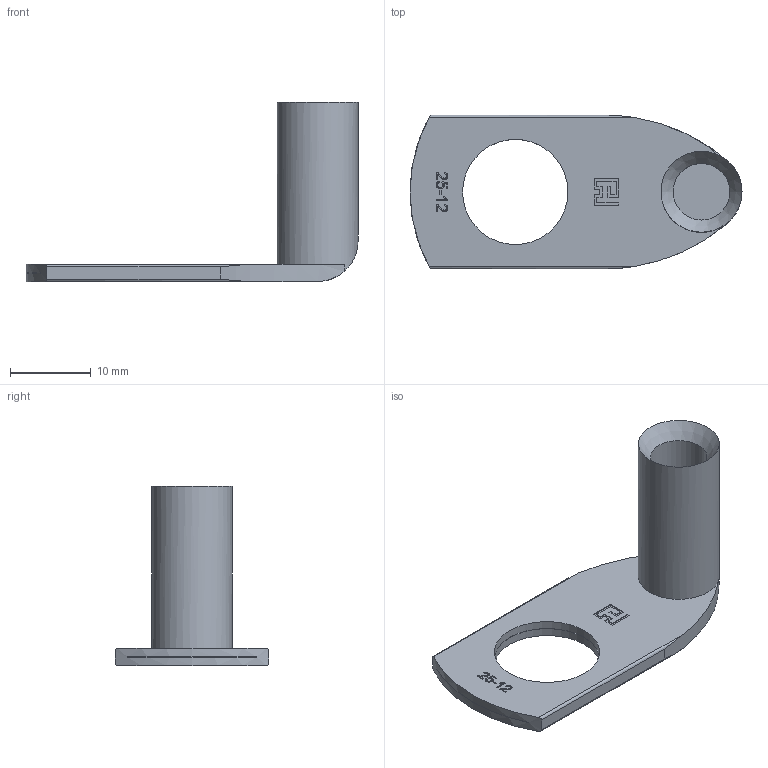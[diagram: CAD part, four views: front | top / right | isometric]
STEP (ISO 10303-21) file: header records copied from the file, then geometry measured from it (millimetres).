
FILE_DESCRIPTION(('FreeCAD Model'),'2;1');
FILE_NAME('Open CASCADE Shape Model','2022-02-03T15:29:34',( 'Frederic Herrmann'),('KEB Automation KG'), 'Open CASCADE STEP processor 7.5','FreeCAD','Unknown');
FILE_SCHEMA(('CONFIG_CONTROL_DESIGN','SHAPE_APPEARANCE_LAYER_MIM'));
Length unit declared in the file: millimetre
Products named in the file (1): 44R12 M12
Bounding box: 41 x 19 x 22.11 mm (x, y, z)
Volume: 2082.9 mm3; surface area: 2698.6 mm2
Topology: 1 solids, 1 shells, 134 faces, 376 edges, 251 vertices
Faces by surface type: plane 63, extrusion 55, cylinder 13, torus 2, cone 1
Full cylindrical faces by diameter (mm): 7 x1, 10 x1, 13 x2
Entity records: 11005 total; most frequent: CARTESIAN_POINT 4201, DIRECTION 929, ORIENTED_EDGE 752, PCURVE 752, DEFINITIONAL_REPRESENTATION 752, VECTOR 701, LINE 646, B_SPLINE_CURVE_WITH_KNOTS 491
